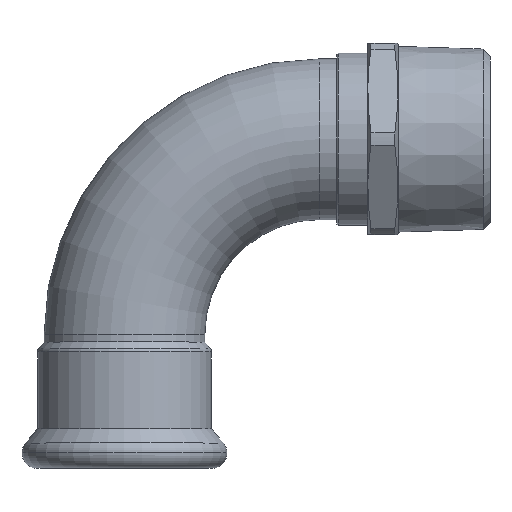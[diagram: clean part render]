
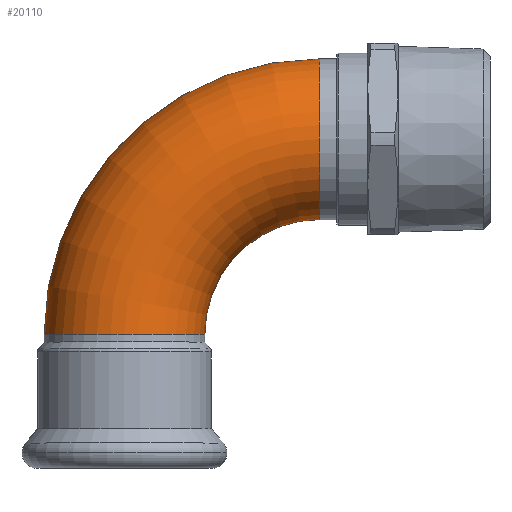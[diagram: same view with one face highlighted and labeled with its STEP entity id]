
A CAD part, top view. The second image highlights one B-rep face of the part: STEP entity #20110.
In plain terms, the highlighted toroidal (fillet/blend) face has major radius 51 mm and minor radius 21 mm.
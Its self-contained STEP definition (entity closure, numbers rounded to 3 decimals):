
#15170=CARTESIAN_POINT('',(-126.071,-622.484,
0.));
#15180=VERTEX_POINT('',#15170);
#15230=CARTESIAN_POINT('',(-147.071,-622.484,
0.));
#15240=DIRECTION('',(0.,-1.,0.));
#15250=DIRECTION('',(1.,0.,0.));
#15260=AXIS2_PLACEMENT_3D('',#15230,#15240,#15250);
#15270=CIRCLE('',#15260,21.);
#15280=CARTESIAN_POINT('',(-168.071,-622.484,
0.));
#15290=VERTEX_POINT('',#15280);
#16210=CARTESIAN_POINT('',(-96.071,-622.484,
0.));
#16220=DIRECTION('',(0.,0.,1.));
#16230=DIRECTION('',(0.,1.,0.));
#16240=AXIS2_PLACEMENT_3D('',#16210,#16220,#16230);
#16250=TOROIDAL_SURFACE('',#16240,51.,21.);
#16260=CARTESIAN_POINT('',(-96.071,-622.484,
0.));
#16270=DIRECTION('',(0.,0.,1.));
#16280=DIRECTION('',(0.,1.,0.));
#16290=AXIS2_PLACEMENT_3D('',#16260,#16270,#16280);
#16300=CIRCLE('',#16290,30.);
#16310=CARTESIAN_POINT('',(-96.071,-592.484,
0.));
#16320=VERTEX_POINT('',#16310);
#16330=EDGE_CURVE('',#16320,#15180,#16300,.T.);
#16400=CARTESIAN_POINT('',(-96.071,-550.484,
0.));
#16410=VERTEX_POINT('',#16400);
#16440=CARTESIAN_POINT('',(-96.071,-622.484,
0.));
#16450=DIRECTION('',(0.,0.,1.));
#16460=DIRECTION('',(0.,1.,0.));
#16470=AXIS2_PLACEMENT_3D('',#16440,#16450,#16460);
#16480=CIRCLE('',#16470,72.);
#16490=EDGE_CURVE('',#16410,#15290,#16480,.T.);
#19980=EDGE_CURVE('',#15180,#15290,#15270,.T.);
#19990=ORIENTED_EDGE('',*,*,#19980,.F.);
#20000=ORIENTED_EDGE('',*,*,#16490,.T.);
#20010=CARTESIAN_POINT('',(-96.071,-571.484,
0.));
#20020=DIRECTION('',(-1.,0.,0.));
#20030=DIRECTION('',(0.,-1.,0.));
#20040=AXIS2_PLACEMENT_3D('',#20010,#20020,#20030);
#20050=CIRCLE('',#20040,21.);
#20060=EDGE_CURVE('',#16320,#16410,#20050,.T.);
#20070=ORIENTED_EDGE('',*,*,#20060,.T.);
#20080=ORIENTED_EDGE('',*,*,#16330,.F.);
#20090=EDGE_LOOP('',(#20080,#20070,#20000,#19990));
#20100=FACE_OUTER_BOUND('',#20090,.T.);
#20110=ADVANCED_FACE('',(#20100),#16250,.T.);
